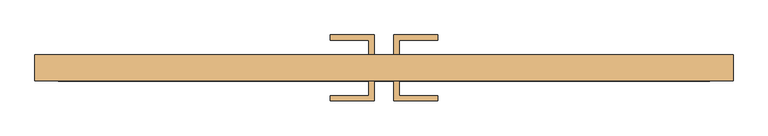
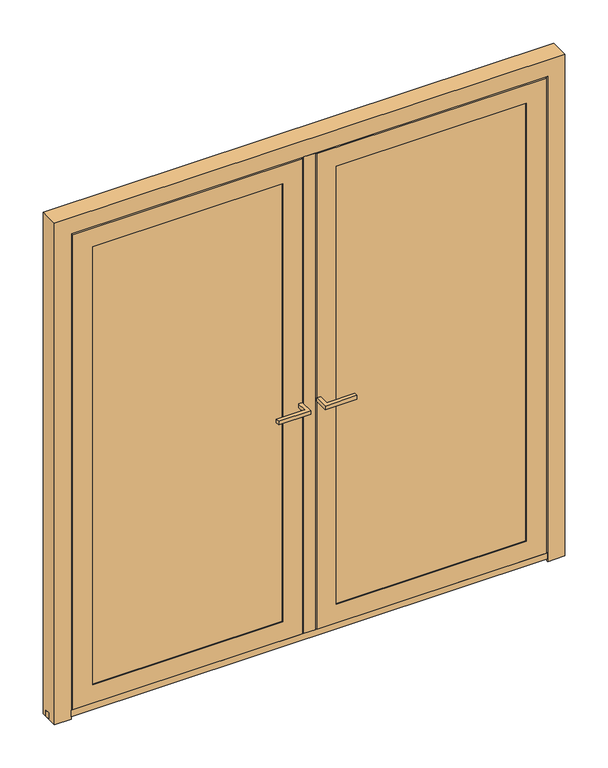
"""IFC4 building model written with IfcOpenShell, lengths in millimetres: door geometry, Reynaers_MasterLine 8_Door_Miter_Inward Opening_Double Vent : Reynaers_MasterLine 8_Door_Miter_Inward Opening_Double Vent."""

from ifc_helpers import new_model, si_unit, frame, origin, place, context, project, spatial, polyline, outline, extrude, faceted_brep, source, transform, mapped, element, save


def door_5675c41e(model_context):
    return source(origin(), model_context, "Body", "SolidModel", [
        extrude(outline(polyline([(29.0, -131.2), (44.0, -131.2), (44.0, -173.7), (156.5, -173.7), (156.5, -188.7), (29.0, -188.7), (29.0, -131.2)])), frame((0.0, 0.0, 1000.0), z_axis=(0.0, 0.0, 1.0), x_axis=(1.0, 0.0, 0.0)), (0.0, 0.0, 1.0), 15.0),
        extrude(outline(polyline([(-29.0, -131.2), (-29.0, -188.7), (-156.5, -188.7), (-156.5, -173.7), (-44.0, -173.7), (-44.0, -131.2), (-29.0, -131.2)])), frame((0.0, 0.0, 1000.0), z_axis=(0.0, 0.0, 1.0), x_axis=(1.0, 0.0, 0.0)), (0.0, 0.0, 1.0), 15.0),
        extrude(outline(polyline([(-29.0, -54.2), (-44.0, -54.2), (-44.0, -11.7), (-156.5, -11.7), (-156.5, 3.3), (-29.0, 3.3), (-29.0, -54.2)])), frame((0.0, 0.0, 1000.0), z_axis=(0.0, 0.0, 1.0), x_axis=(1.0, 0.0, 0.0)), (0.0, 0.0, 1.0), 15.0),
        extrude(outline(polyline([(29.0, -54.2), (29.0, 3.3), (156.5, 3.3), (156.5, -11.7), (44.0, -11.7), (44.0, -54.2), (29.0, -54.2)])), frame((0.0, 0.0, 1000.0), z_axis=(0.0, 0.0, 1.0), x_axis=(1.0, 0.0, 0.0)), (0.0, 0.0, 1.0), 15.0),
        extrude(outline(polyline([(1020.0, -91.2513402), (-1020.0, -91.2513402), (-1020.0, -71.4513402), (1020.0, -71.4513402), (1020.0, -91.2513402)])), frame((0.0, 0.0, 1.0), z_axis=(0.0, 0.0, 1.0), x_axis=(1.0, 0.0, 0.0)), (0.0, 0.0, 1.0), 25.0),
        extrude(outline(polyline([(1994.0000003, 80.4999997), (88.4999997, 80.4999997), (88.4999997, 894.0000003), (1994.0000003, 894.0000003), (1994.0000003, 80.4999997)]), holes=[polyline([(113.4999768, 105.4999768), (1969.0000232, 105.4999768), (1969.0000232, 869.0000232), (113.4999768, 869.0000232), (113.4999768, 105.4999768)])]), frame((0.0, -91.4, 0.0), z_axis=(0.0, 1.0, 0.0), x_axis=(0.0, 0.0, 1.0)), (0.0, 0.0, 1.0), 37.2),
        extrude(outline(polyline([(1994.0000003, -80.4999997), (1994.0000003, -894.0000003), (88.4999997, -894.0000003), (88.4999997, -80.4999997), (1994.0000003, -80.4999997)]), holes=[polyline([(1969.0000232, -869.0000232), (1969.0000232, -105.4999768), (113.4999768, -105.4999768), (113.4999768, -869.0000232), (1969.0000232, -869.0000232)])]), frame((0.0, -91.4, 0.0), z_axis=(0.0, 1.0, 0.0), x_axis=(0.0, 0.0, 1.0)), (0.0, 0.0, 1.0), 37.2),
        extrude(outline(polyline([(23.0, -131.2), (-23.0, -131.2), (-23.0, -122.4), (-14.2, -122.4), (-14.2, -63.0001837), (8.0, -63.0001837), (8.0, -127.4), (23.0, -127.4), (23.0, -131.2)])), frame((0.0, 0.0, 37.0), z_axis=(0.0, 0.0, 1.0), x_axis=(1.0, 0.0, 0.0)), (0.0, 0.0, 1.0), 2014.5),
        faceted_brep([(3.0, -58.0, 11.0), (3.0, -58.0, 2071.5), (3.0, -54.2, 2071.5), (3.0, -54.2, 11.0), (18.0, -122.4001837, 26.0), (18.0, -122.4001837, 2056.5), (18.0, -58.0, 2056.5), (18.0, -58.0, 26.0), (29.0, -131.2, 37.0), (29.0, -131.2, 2045.5), (29.0, -122.4001837, 2045.5), (29.0, -122.4001837, 37.0), (107.5, -127.2, 115.5), (107.5, -127.2, 1967.0), (107.5, -131.2, 1967.0), (107.5, -131.2, 115.5), (80.4999997, -54.2, 88.4999997), (80.4999997, -54.2, 1994.0000003), (80.4999997, -127.2, 1994.0000003), (80.4999997, -127.2, 88.4999997), (971.5, -58.0, 2071.5), (971.5, -54.2, 2071.5), (956.5, -122.4001837, 2056.5), (956.5, -58.0, 2056.5), (945.5, -131.2, 2045.5), (945.5, -122.4001837, 2045.5), (867.0, -127.2, 1967.0), (867.0, -131.2, 1967.0), (894.0000003, -54.2, 1994.0000003), (894.0000003, -127.2, 1994.0000003), (971.5, -58.0, 11.0), (971.5, -54.2, 11.0), (956.5, -122.4001837, 26.0), (956.5, -58.0, 26.0), (945.5, -131.2, 37.0), (945.5, -122.4001837, 37.0), (867.0, -127.2, 115.5), (867.0, -131.2, 115.5), (894.0000003, -54.2, 88.4999997), (894.0000003, -127.2, 88.4999997)], [[[0, 1, 2, 3]], [[4, 5, 6, 7]], [[8, 9, 10, 11]], [[12, 13, 14, 15]], [[16, 17, 18, 19]], [[1, 20, 21, 2]], [[5, 22, 23, 6]], [[9, 24, 25, 10]], [[13, 26, 27, 14]], [[17, 28, 29, 18]], [[20, 30, 31, 21]], [[22, 32, 33, 23]], [[24, 34, 35, 25]], [[26, 36, 37, 27]], [[28, 38, 39, 29]], [[3, 2, 21, 31], [17, 16, 38, 28]], [[30, 0, 3, 31]], [[1, 0, 30, 20], [7, 6, 23, 33]], [[32, 4, 7, 33]], [[5, 4, 32, 22], [11, 10, 25, 35]], [[34, 8, 11, 35]], [[9, 8, 34, 24], [15, 14, 27, 37]], [[36, 12, 15, 37]], [[19, 18, 29, 39], [13, 12, 36, 26]], [[38, 16, 19, 39]]]),
        extrude(outline(polyline([(951.5, -131.2), (-951.5, -131.2), (-951.5, -126.0349037), (951.5, -126.0349037), (951.5, -131.2)])), frame((0.0, 0.0, 11.0), z_axis=(0.0, 0.0, 1.0), x_axis=(1.0, 0.0, 0.0)), (0.0, 0.0, 1.0), 26.0),
        faceted_brep([(-951.5, -127.4, 0.0), (-951.5, -131.2, 0.0), (-1020.0, -131.2, 0.0), (-1020.0, -54.2, 0.0), (-977.5, -54.2, 0.0), (-977.5, -63.0001837, 0.0), (-966.5, -63.0001837, 0.0), (-966.5, -127.4, 0.0), (951.5, -127.4, 0.0), (966.5, -127.4, 0.0), (966.5, -63.0001837, 0.0), (977.5, -63.0001837, 0.0), (977.5, -54.2, 0.0), (1020.0, -54.2, 0.0), (1020.0, -131.2, 0.0), (951.5, -131.2, 0.0), (-966.5, -127.4, 2066.5), (966.5, -127.4, 2066.5), (951.5, -127.4, 2051.5), (-951.5, -127.4, 2051.5), (-966.5, -63.0001837, 2066.5), (-977.5, -63.0001837, 2077.5), (977.5, -63.0001837, 2077.5), (966.5, -63.0001837, 2066.5), (-977.5, -54.2, 2077.5), (-1020.0, -54.2, 2120.0), (1020.0, -54.2, 2120.0), (977.5, -54.2, 2077.5), (-1020.0, -131.2, 2120.0), (-951.5, -131.2, 2051.5), (951.5, -131.2, 2051.5), (1020.0, -131.2, 2120.0)], [[[0, 1, 2, 3, 4, 5, 6, 7]], [[8, 9, 10, 11, 12, 13, 14, 15]], [[7, 16, 17, 9, 8, 18, 19, 0]], [[6, 20, 16, 7]], [[5, 21, 22, 11, 10, 23, 20, 6]], [[4, 24, 21, 5]], [[3, 25, 26, 13, 12, 27, 24, 4]], [[2, 28, 25, 3]], [[1, 29, 30, 15, 14, 31, 28, 2]], [[0, 19, 29, 1]], [[20, 23, 17, 16]], [[24, 27, 22, 21]], [[28, 31, 26, 25]], [[19, 18, 30, 29]], [[23, 10, 9, 17]], [[27, 12, 11, 22]], [[31, 14, 13, 26]], [[18, 8, 15, 30]]]),
        faceted_brep([(-956.5, -122.4, 2056.5), (-18.0, -122.4, 2056.5), (-18.0, -58.0, 2056.5), (-956.5, -58.0, 2056.5), (-945.5, -131.2, 2045.5), (-29.0, -131.2, 2045.5), (-29.0, -122.4, 2045.5), (-945.5, -122.4, 2045.5), (-867.0, -127.2, 1967.0), (-107.5, -127.2, 1967.0), (-107.5, -131.2, 1967.0), (-867.0, -131.2, 1967.0), (-894.0000003, -54.2, 1994.0000003), (-80.4999997, -54.2, 1994.0000003), (-80.4999997, -127.2, 1994.0000003), (-894.0000003, -127.2, 1994.0000003), (-971.5, -58.0, 2071.5), (-3.0, -58.0, 2071.5), (-3.0, -54.2, 2071.5), (-971.5, -54.2, 2071.5), (-18.0, -122.4, 26.0), (-18.0, -58.0, 26.0), (-29.0, -131.2, 37.0), (-29.0, -122.4, 37.0), (-107.5, -127.2, 115.5), (-107.5, -131.2, 115.5), (-80.4999997, -54.2, 88.4999997), (-80.4999997, -127.2, 88.4999997), (-3.0, -58.0, 11.0), (-3.0, -54.2, 11.0), (-956.5, -122.4, 26.0), (-956.5, -58.0, 26.0), (-945.5, -131.2, 37.0), (-945.5, -122.4, 37.0), (-867.0, -127.2, 115.5), (-867.0, -131.2, 115.5), (-894.0000003, -54.2, 88.4999997), (-894.0000003, -127.2, 88.4999997), (-971.5, -58.0, 11.0), (-971.5, -54.2, 11.0)], [[[0, 1, 2, 3]], [[4, 5, 6, 7]], [[8, 9, 10, 11]], [[12, 13, 14, 15]], [[16, 17, 18, 19]], [[1, 20, 21, 2]], [[5, 22, 23, 6]], [[9, 24, 25, 10]], [[13, 26, 27, 14]], [[17, 28, 29, 18]], [[20, 30, 31, 21]], [[22, 32, 33, 23]], [[24, 34, 35, 25]], [[26, 36, 37, 27]], [[28, 38, 39, 29]], [[30, 0, 3, 31]], [[1, 0, 30, 20], [7, 6, 23, 33]], [[32, 4, 7, 33]], [[5, 4, 32, 22], [11, 10, 25, 35]], [[34, 8, 11, 35]], [[15, 14, 27, 37], [9, 8, 34, 24]], [[36, 12, 15, 37]], [[19, 18, 29, 39], [13, 12, 36, 26]], [[38, 16, 19, 39]], [[17, 16, 38, 28], [3, 2, 21, 31]]]),
        extrude(outline(polyline([(886.0, -123.2), (88.5, -123.2), (88.5, -96.2), (886.0, -96.2), (886.0, -123.2)])), frame((0.0, 0.0, 96.5), z_axis=(0.0, 0.0, 1.0), x_axis=(1.0, 0.0, 0.0)), (0.0, 0.0, 1.0), 1889.5),
        extrude(outline(polyline([(-88.5, -96.2), (-88.5, -123.2), (-886.0, -123.2), (-886.0, -96.2), (-88.5, -96.2)])), frame((0.0, 0.0, 96.5), z_axis=(0.0, 0.0, 1.0), x_axis=(1.0, 0.0, 0.0)), (0.0, 0.0, 1.0), 1889.5),
    ])


if __name__ == "__main__":
    model = new_model("IFC4")
    model_context = context("Model", 3, world=origin())
    ifc_project = project(units=[si_unit("LENGTHUNIT", "METRE", prefix="MILLI")], contexts=[model_context])
    site = spatial("IfcSite", under=ifc_project)
    building = spatial("IfcBuilding", under=site)
    placement = place(None, origin())
    door_shape = door_5675c41e(model_context)
    element("IfcDoor", 1, ObjectType="Reynaers_MasterLine 8_Door_Miter_Inward Opening_Double Vent : Reynaers_MasterLine 8_Door_Miter_Inward Opening_Double Vent", at=placement, inside=building, context=model_context, shape_type="MappedRepresentation", body=[
        mapped(door_shape, transform((0.0, 0.0, 0.0), x_axis=(1.0, 0.0, 0.0), y_axis=(0.0, 1.0, 0.0), z_axis=(0.0, 0.0, 1.0))),
    ])
    save(model, "model.ifc")
